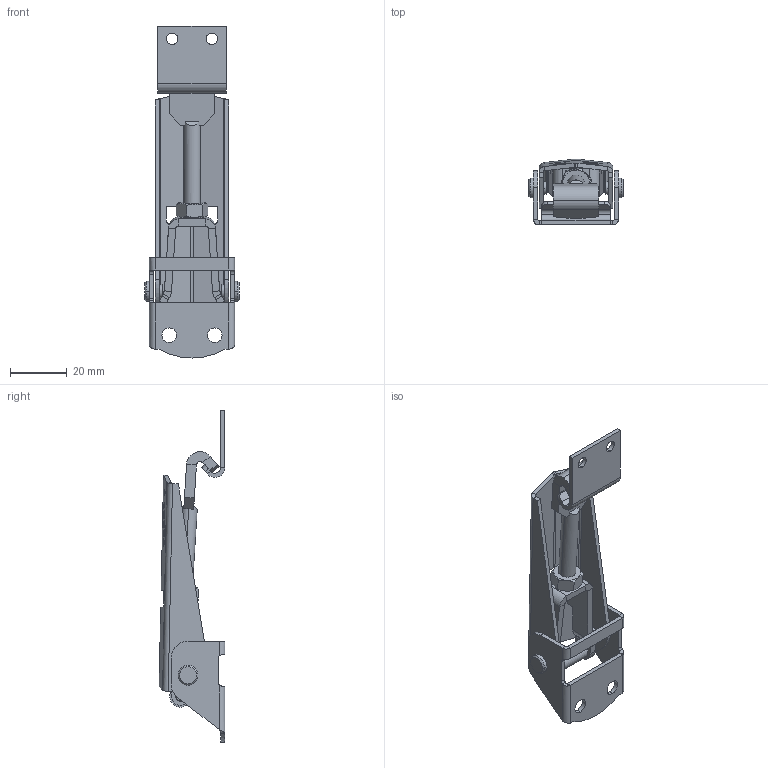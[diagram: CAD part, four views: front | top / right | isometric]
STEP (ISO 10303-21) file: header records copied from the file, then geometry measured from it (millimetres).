
FILE_DESCRIPTION (( 'STEP AP214' ), '1' );
FILE_NAME ('93302 Y.STEP', '2020-09-21T08:17:01', ( '' ), ( '' ), 'SwSTEP 2.0', 'SolidWorks 2020', '' );
FILE_SCHEMA (( 'AUTOMOTIVE_DESIGN' ));
Length unit declared in the file: millimetre
Products named in the file (7): 93302 Y; 93303_M6 kanca; 93302 kanca tutucu V; 93302 govde; 93302 karsýlýk kancasý; M6 Somun; 93302 hareket kolu
Assembly tree (6 placements, depth 2):
  93302 Y
    93302 govde
    93302 hareket kolu
    93302 kanca tutucu V
    93302 karsýlýk kancasý
    93303_M6 kanca
    M6 Somun
Bounding box: 33.4 x 23.21 x 117 mm (x, y, z)
Volume: 12933.9 mm3; surface area: 16123.2 mm2
Topology: 6 solids, 6 shells, 485 faces, 1214 edges, 762 vertices
Faces by surface type: plane 232, bspline 140, cylinder 99, cone 14
Entity records: 22920 total; most frequent: CARTESIAN_POINT 9718, ORIENTED_EDGE 2428, DIRECTION 1814, EDGE_CURVE 1214, VERTEX_POINT 762, LINE 706, VECTOR 706, AXIS2_PLACEMENT_3D 554
